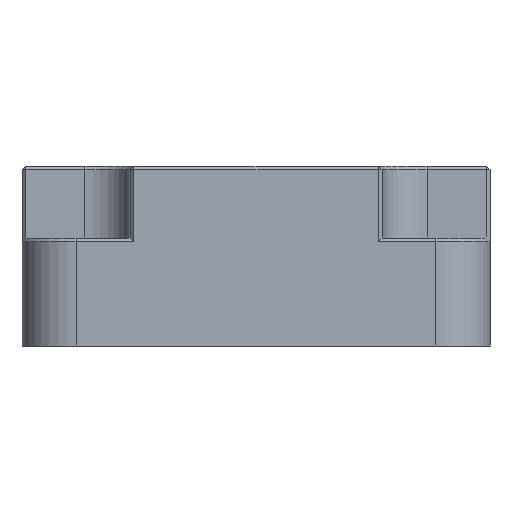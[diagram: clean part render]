
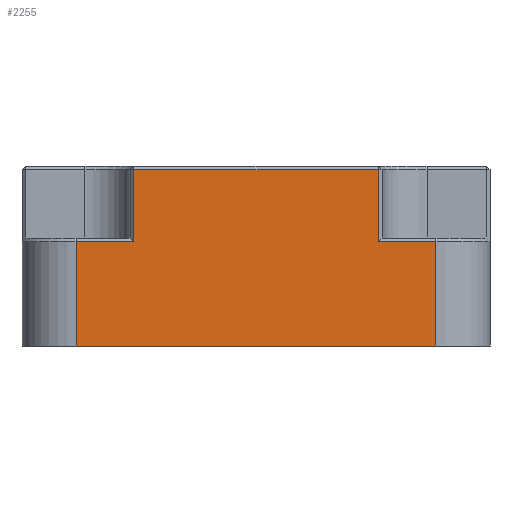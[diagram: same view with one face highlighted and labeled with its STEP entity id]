
A CAD part, left-side view. The second image highlights one B-rep face of the part: STEP entity #2255.
In plain terms, the highlighted planar face has unit normal (-1, 0, 0).
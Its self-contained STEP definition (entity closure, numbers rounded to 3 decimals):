
#20 = ORIENTED_EDGE ( 'NONE', *, *, #443, .T. ) ;
#35 = VERTEX_POINT ( 'NONE', #987 ) ;
#130 = VECTOR ( 'NONE', #2026, 1000. ) ;
#133 = VERTEX_POINT ( 'NONE', #1415 ) ;
#177 = CARTESIAN_POINT ( 'NONE',  ( -14.85, 6.8, 9.8 ) ) ;
#208 = LINE ( 'NONE', #713, #1709 ) ;
#220 = ORIENTED_EDGE ( 'NONE', *, *, #1086, .T. ) ;
#236 = CARTESIAN_POINT ( 'NONE',  ( -14.85, 10., 5.8 ) ) ;
#255 = VECTOR ( 'NONE', #2260, 1000. ) ;
#258 = CARTESIAN_POINT ( 'NONE',  ( -14.85, -10., 5.8 ) ) ;
#292 = CARTESIAN_POINT ( 'NONE',  ( -14.85, 10., 6. ) ) ;
#313 = LINE ( 'NONE', #784, #255 ) ;
#410 = EDGE_CURVE ( 'NONE', #133, #429, #923, .T. ) ;
#429 = VERTEX_POINT ( 'NONE', #236 ) ;
#443 = EDGE_CURVE ( 'NONE', #1171, #133, #1188, .T. ) ;
#499 = VECTOR ( 'NONE', #1107, 1000. ) ;
#511 = VECTOR ( 'NONE', #1830, 1000. ) ;
#566 = DIRECTION ( 'NONE',  ( 0., 0., -1. ) ) ;
#660 = ORIENTED_EDGE ( 'NONE', *, *, #1279, .T. ) ;
#682 = DIRECTION ( 'NONE',  ( 0., 1., 0. ) ) ;
#692 = CARTESIAN_POINT ( 'NONE',  ( -14.85, 10., 0. ) ) ;
#713 = CARTESIAN_POINT ( 'NONE',  ( -14.85, -7., 5.8 ) ) ;
#728 = CARTESIAN_POINT ( 'NONE',  ( -14.85, -6.8, 6. ) ) ;
#784 = CARTESIAN_POINT ( 'NONE',  ( -14.85, -10., 6. ) ) ;
#822 = DIRECTION ( 'NONE',  ( 0., -1., 0. ) ) ;
#829 = ORIENTED_EDGE ( 'NONE', *, *, #1666, .T. ) ;
#853 = DIRECTION ( 'NONE',  ( 1., 0., 0. ) ) ;
#922 = VERTEX_POINT ( 'NONE', #258 ) ;
#923 = LINE ( 'NONE', #1878, #499 ) ;
#987 = CARTESIAN_POINT ( 'NONE',  ( -14.85, -10., 0. ) ) ;
#1055 = LINE ( 'NONE', #728, #1472 ) ;
#1066 = AXIS2_PLACEMENT_3D ( 'NONE', #1197, #853, #566 ) ;
#1074 = ORIENTED_EDGE ( 'NONE', *, *, #1684, .T. ) ;
#1086 = EDGE_CURVE ( 'NONE', #1550, #35, #1242, .T. ) ;
#1107 = DIRECTION ( 'NONE',  ( 0., 1., 0. ) ) ;
#1115 = EDGE_CURVE ( 'NONE', #922, #35, #313, .T. ) ;
#1135 = LINE ( 'NONE', #1495, #511 ) ;
#1149 = FACE_OUTER_BOUND ( 'NONE', #1835, .T. ) ;
#1171 = VERTEX_POINT ( 'NONE', #177 ) ;
#1188 = LINE ( 'NONE', #1330, #2008 ) ;
#1197 = CARTESIAN_POINT ( 'NONE',  ( -14.85, 10., 6. ) ) ;
#1219 = CARTESIAN_POINT ( 'NONE',  ( -14.85, -6.8, 9.8 ) ) ;
#1237 = VERTEX_POINT ( 'NONE', #1272 ) ;
#1242 = LINE ( 'NONE', #2134, #1797 ) ;
#1247 = DIRECTION ( 'NONE',  ( 0., 0., -1. ) ) ;
#1272 = CARTESIAN_POINT ( 'NONE',  ( -14.85, -6.8, 5.8 ) ) ;
#1279 = EDGE_CURVE ( 'NONE', #1237, #1395, #1055, .T. ) ;
#1330 = CARTESIAN_POINT ( 'NONE',  ( -14.85, 6.8, 6. ) ) ;
#1395 = VERTEX_POINT ( 'NONE', #1219 ) ;
#1415 = CARTESIAN_POINT ( 'NONE',  ( -14.85, 6.8, 5.8 ) ) ;
#1472 = VECTOR ( 'NONE', #2054, 1000. ) ;
#1492 = LINE ( 'NONE', #292, #130 ) ;
#1495 = CARTESIAN_POINT ( 'NONE',  ( -14.85, 7., 9.8 ) ) ;
#1550 = VERTEX_POINT ( 'NONE', #692 ) ;
#1666 = EDGE_CURVE ( 'NONE', #429, #1550, #1492, .T. ) ;
#1684 = EDGE_CURVE ( 'NONE', #1395, #1171, #1135, .T. ) ;
#1709 = VECTOR ( 'NONE', #682, 1000. ) ;
#1797 = VECTOR ( 'NONE', #822, 1000. ) ;
#1830 = DIRECTION ( 'NONE',  ( 0., 1., 0. ) ) ;
#1835 = EDGE_LOOP ( 'NONE', ( #20, #1875, #829, #220, #2112, #2204, #660, #1074 ) ) ;
#1875 = ORIENTED_EDGE ( 'NONE', *, *, #410, .T. ) ;
#1878 = CARTESIAN_POINT ( 'NONE',  ( -14.85, 10., 5.8 ) ) ;
#1952 = EDGE_CURVE ( 'NONE', #922, #1237, #208, .T. ) ;
#2008 = VECTOR ( 'NONE', #1247, 1000. ) ;
#2026 = DIRECTION ( 'NONE',  ( 0., 0., -1. ) ) ;
#2054 = DIRECTION ( 'NONE',  ( 0., 0., 1. ) ) ;
#2112 = ORIENTED_EDGE ( 'NONE', *, *, #1115, .F. ) ;
#2134 = CARTESIAN_POINT ( 'NONE',  ( -14.85, 10., 0. ) ) ;
#2161 = PLANE ( 'NONE',  #1066 ) ;
#2204 = ORIENTED_EDGE ( 'NONE', *, *, #1952, .T. ) ;
#2255 = ADVANCED_FACE ( 'NONE', ( #1149 ), #2161, .F. ) ;
#2260 = DIRECTION ( 'NONE',  ( 0., 0., -1. ) ) ;
